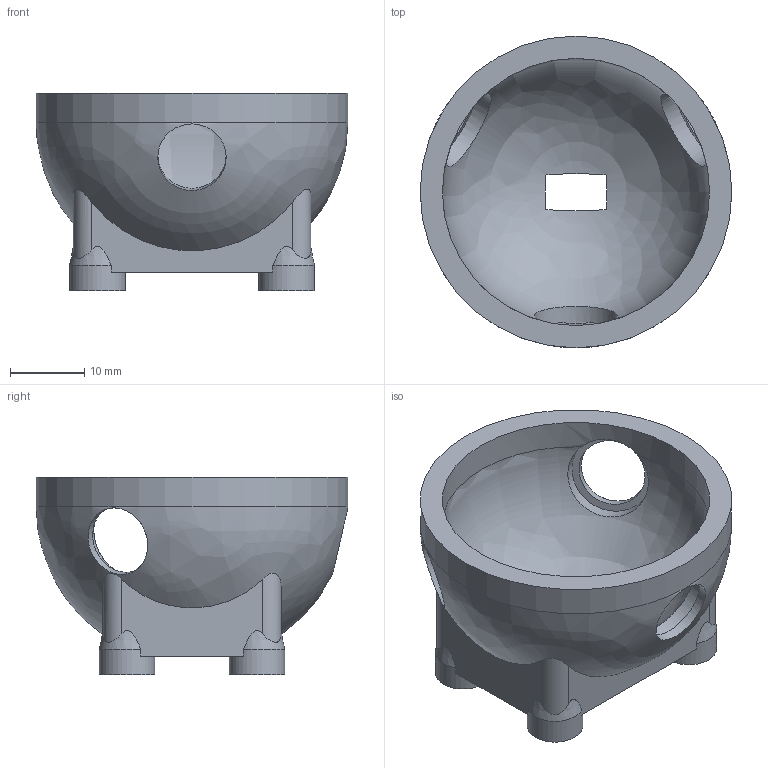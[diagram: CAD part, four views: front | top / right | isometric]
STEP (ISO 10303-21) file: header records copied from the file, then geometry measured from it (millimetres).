
FILE_DESCRIPTION(('Open CASCADE Model'),'2;1');
FILE_NAME('Open CASCADE Shape Model','2026-05-31T19:43:16',('Author'),( 'Open CASCADE'),'Open CASCADE STEP processor 7.6','Open CASCADE 7.6' ,'Unknown');
FILE_SCHEMA(('AP242_MANAGED_MODEL_BASED_3D_ENGINEERING_MIM_LF. {1 0 10303 442 1 1 4 }'));
Length unit declared in the file: millimetre
Products named in the file (1): Open CASCADE STEP translator 7.6 11
Bounding box: 42 x 42 x 26.6 mm (x, y, z)
Volume: 9943.7 mm3; surface area: 7149.2 mm2
Topology: 1 solids, 1 shells, 56 faces, 147 edges, 98 vertices
Faces by surface type: cylinder 24, plane 22, bspline 4, cone 4, revolution 2
Full cylindrical faces by diameter (mm): 3.5 x4, 7.5 x4, 9.2 x3, 11.2 x3, 36 x1, 42 x1
Entity records: 8483 total; most frequent: CARTESIAN_POINT 5656, DIRECTION 486, ORIENTED_EDGE 294, PCURVE 294, DEFINITIONAL_REPRESENTATION 294, LINE 236, VECTOR 236, EDGE_CURVE 147
